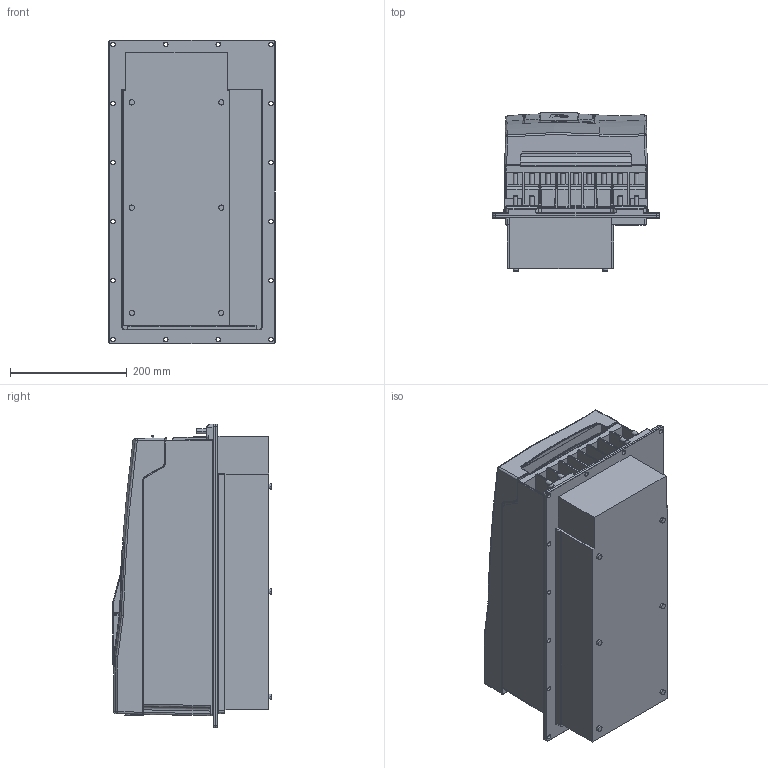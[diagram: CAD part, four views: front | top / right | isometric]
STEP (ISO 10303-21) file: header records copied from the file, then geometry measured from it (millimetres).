
FILE_DESCRIPTION (( 'STEP AP214' ), '1' );
FILE_NAME ('F6-6TR5-K000.STEP', '2020-12-09T11:24:12', ( '' ), ( '' ), 'SwSTEP 2.0', 'SolidWorks 2019', '' );
FILE_SCHEMA (( 'AUTOMOTIVE_DESIGN' ));
Length unit declared in the file: millimetre
Products named in the file (11): 10027052_000_Geh„usebaugruppe F6-6 (Kundenmodell); 10060787_000; 10046128_000_Basis Leistungsteil F6-6 TR5 (Kundenmodell); F6-6TR5-K000; 10061793_000_Deckelbaugruppe F6-6 (Kundenmodell); 10035735_000_Kundenmodell; 10061794_000; 10059765_000; 10059764_000_Blindabdeckung (Kundenmodell); 10058413_000; 10061939_000
Assembly tree (10 placements, depth 4):
  F6-6TR5-K000
    10046128_000_Basis Leistungsteil F6-6 TR5 (Kundenmodell)
      10061939_000
    10027052_000_Geh„usebaugruppe F6-6 (Kundenmodell)
      10061793_000_Deckelbaugruppe F6-6 (Kundenmodell)
        10061794_000
      10060787_000
    10035735_000_Kundenmodell
      10059764_000_Blindabdeckung (Kundenmodell)
        10059765_000
      10058413_000
Bounding box: 285 x 270.9 x 520 mm (x, y, z)
Volume: 25669170.1 mm3; surface area: 1330388.9 mm2
Topology: 12 solids, 19 shells, 2920 faces, 7287 edges, 4335 vertices
Faces by surface type: cylinder 1042, plane 919, bspline 614, torus 170, sphere 107, cone 68
Entity records: 98587 total; most frequent: CARTESIAN_POINT 34243, ORIENTED_EDGE 14262, DIRECTION 12419, EDGE_CURVE 7131, AXIS2_PLACEMENT_3D 4539, VERTEX_POINT 4333, VECTOR 3341, LINE 3341
